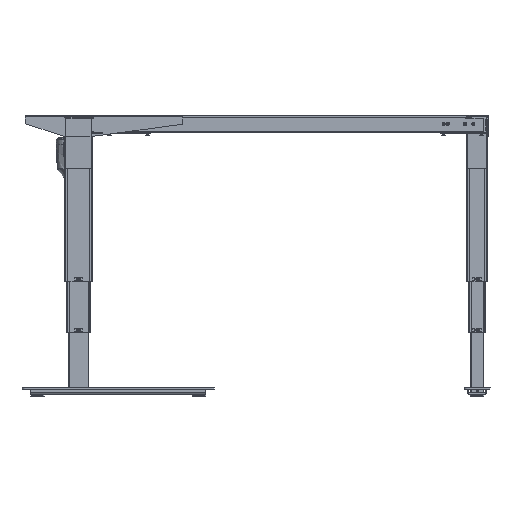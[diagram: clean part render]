
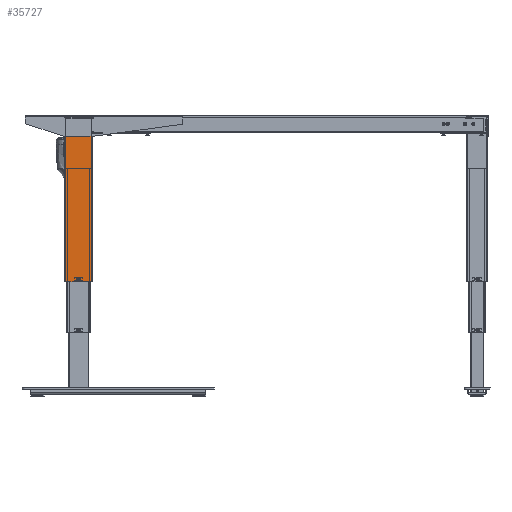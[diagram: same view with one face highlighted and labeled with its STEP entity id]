
A CAD part, left-side view. The second image highlights one B-rep face of the part: STEP entity #35727.
In plain terms, the highlighted planar face has unit normal (-1, 0, 0).
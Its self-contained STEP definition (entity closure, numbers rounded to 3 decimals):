
#633 = EDGE_CURVE ( 'NONE', #95749, #8575, #63079, .T. ) ;
#2408 = ORIENTED_EDGE ( 'NONE', *, *, #30815, .F. ) ;
#5197 = VERTEX_POINT ( 'NONE', #38048 ) ;
#7852 = EDGE_CURVE ( 'NONE', #5197, #88414, #52722, .T. ) ;
#8575 = VERTEX_POINT ( 'NONE', #81693 ) ;
#9669 = DIRECTION ( 'NONE',  ( 0., 0., -1. ) ) ;
#19348 = VECTOR ( 'NONE', #51440, 1000. ) ;
#19595 = DIRECTION ( 'NONE',  ( 0., 1., 0. ) ) ;
#20725 = LINE ( 'NONE', #51903, #27082 ) ;
#20751 = ORIENTED_EDGE ( 'NONE', *, *, #46393, .T. ) ;
#22531 = VECTOR ( 'NONE', #53168, 1000. ) ;
#23024 = VECTOR ( 'NONE', #35083, 1000. ) ;
#24879 = FACE_BOUND ( 'NONE', #47284, .T. ) ;
#25709 = CARTESIAN_POINT ( 'NONE',  ( -30., 6., 10. ) ) ;
#27082 = VECTOR ( 'NONE', #84502, 1000. ) ;
#27584 = LINE ( 'NONE', #65608, #51756 ) ;
#30815 = EDGE_CURVE ( 'NONE', #86320, #8575, #20725, .T. ) ;
#30908 = EDGE_LOOP ( 'NONE', ( #2408, #58971, #41996, #48655 ) ) ;
#34100 = EDGE_CURVE ( 'NONE', #96406, #95749, #27584, .T. ) ;
#35083 = DIRECTION ( 'NONE',  ( 0., 0., -1. ) ) ;
#35727 = ADVANCED_FACE ( 'NONE', ( #24879, #98462 ), #68434, .F. ) ;
#35841 = CARTESIAN_POINT ( 'NONE',  ( -30., 37., 480. ) ) ;
#38048 = CARTESIAN_POINT ( 'NONE',  ( -30., -6., 6. ) ) ;
#39666 = DIRECTION ( 'NONE',  ( 0., 1., 0. ) ) ;
#39775 = EDGE_CURVE ( 'NONE', #88414, #86252, #40914, .T. ) ;
#40387 = ORIENTED_EDGE ( 'NONE', *, *, #39775, .T. ) ;
#40914 = LINE ( 'NONE', #66971, #19348 ) ;
#41996 = ORIENTED_EDGE ( 'NONE', *, *, #34100, .T. ) ;
#44356 = DIRECTION ( 'NONE',  ( 1., 0., 0. ) ) ;
#45821 = LINE ( 'NONE', #84050, #23024 ) ;
#46393 = EDGE_CURVE ( 'NONE', #86252, #89004, #67730, .T. ) ;
#47284 = EDGE_LOOP ( 'NONE', ( #40387, #20751, #69905, #59412 ) ) ;
#48159 = CARTESIAN_POINT ( 'NONE',  ( -30., 6., 6. ) ) ;
#48655 = ORIENTED_EDGE ( 'NONE', *, *, #633, .T. ) ;
#51440 = DIRECTION ( 'NONE',  ( 0., 0., 1. ) ) ;
#51756 = VECTOR ( 'NONE', #9669, 1000. ) ;
#51903 = CARTESIAN_POINT ( 'NONE',  ( -30., -37., 480. ) ) ;
#52722 = LINE ( 'NONE', #48159, #83134 ) ;
#53168 = DIRECTION ( 'NONE',  ( 0., -1., 0. ) ) ;
#53251 = EDGE_CURVE ( 'NONE', #86320, #96406, #78507, .T. ) ;
#56950 = VECTOR ( 'NONE', #59532, 1000. ) ;
#58971 = ORIENTED_EDGE ( 'NONE', *, *, #53251, .T. ) ;
#59412 = ORIENTED_EDGE ( 'NONE', *, *, #7852, .T. ) ;
#59532 = DIRECTION ( 'NONE',  ( 0., 1., 0. ) ) ;
#60574 = CARTESIAN_POINT ( 'NONE',  ( -30., 37., 0. ) ) ;
#63079 = LINE ( 'NONE', #60574, #22531 ) ;
#65059 = CARTESIAN_POINT ( 'NONE',  ( -30., -37., 475. ) ) ;
#65378 = CARTESIAN_POINT ( 'NONE',  ( -30., 6., 6. ) ) ;
#65608 = CARTESIAN_POINT ( 'NONE',  ( -30., 37., 480. ) ) ;
#66971 = CARTESIAN_POINT ( 'NONE',  ( -30., 6., 10. ) ) ;
#67730 = LINE ( 'NONE', #25709, #80516 ) ;
#67998 = CARTESIAN_POINT ( 'NONE',  ( -30., -40., 475. ) ) ;
#68434 = PLANE ( 'NONE',  #100850 ) ;
#69905 = ORIENTED_EDGE ( 'NONE', *, *, #81132, .T. ) ;
#70740 = CARTESIAN_POINT ( 'NONE',  ( -30., -6., 10. ) ) ;
#78507 = LINE ( 'NONE', #67998, #56950 ) ;
#80516 = VECTOR ( 'NONE', #90645, 1000. ) ;
#81132 = EDGE_CURVE ( 'NONE', #89004, #5197, #45821, .T. ) ;
#81327 = CARTESIAN_POINT ( 'NONE',  ( -30., 37., 0. ) ) ;
#81693 = CARTESIAN_POINT ( 'NONE',  ( -30., -37., 0. ) ) ;
#82388 = CARTESIAN_POINT ( 'NONE',  ( -30., 37., 475. ) ) ;
#83134 = VECTOR ( 'NONE', #39666, 1000. ) ;
#84050 = CARTESIAN_POINT ( 'NONE',  ( -30., -6., 10. ) ) ;
#84502 = DIRECTION ( 'NONE',  ( 0., 0., -1. ) ) ;
#86252 = VERTEX_POINT ( 'NONE', #97052 ) ;
#86320 = VERTEX_POINT ( 'NONE', #65059 ) ;
#88414 = VERTEX_POINT ( 'NONE', #65378 ) ;
#89004 = VERTEX_POINT ( 'NONE', #70740 ) ;
#90645 = DIRECTION ( 'NONE',  ( 0., -1., 0. ) ) ;
#95749 = VERTEX_POINT ( 'NONE', #81327 ) ;
#96406 = VERTEX_POINT ( 'NONE', #82388 ) ;
#97052 = CARTESIAN_POINT ( 'NONE',  ( -30., 6., 10. ) ) ;
#98462 = FACE_OUTER_BOUND ( 'NONE', #30908, .T. ) ;
#100850 = AXIS2_PLACEMENT_3D ( 'NONE', #35841, #44356, #19595 ) ;
